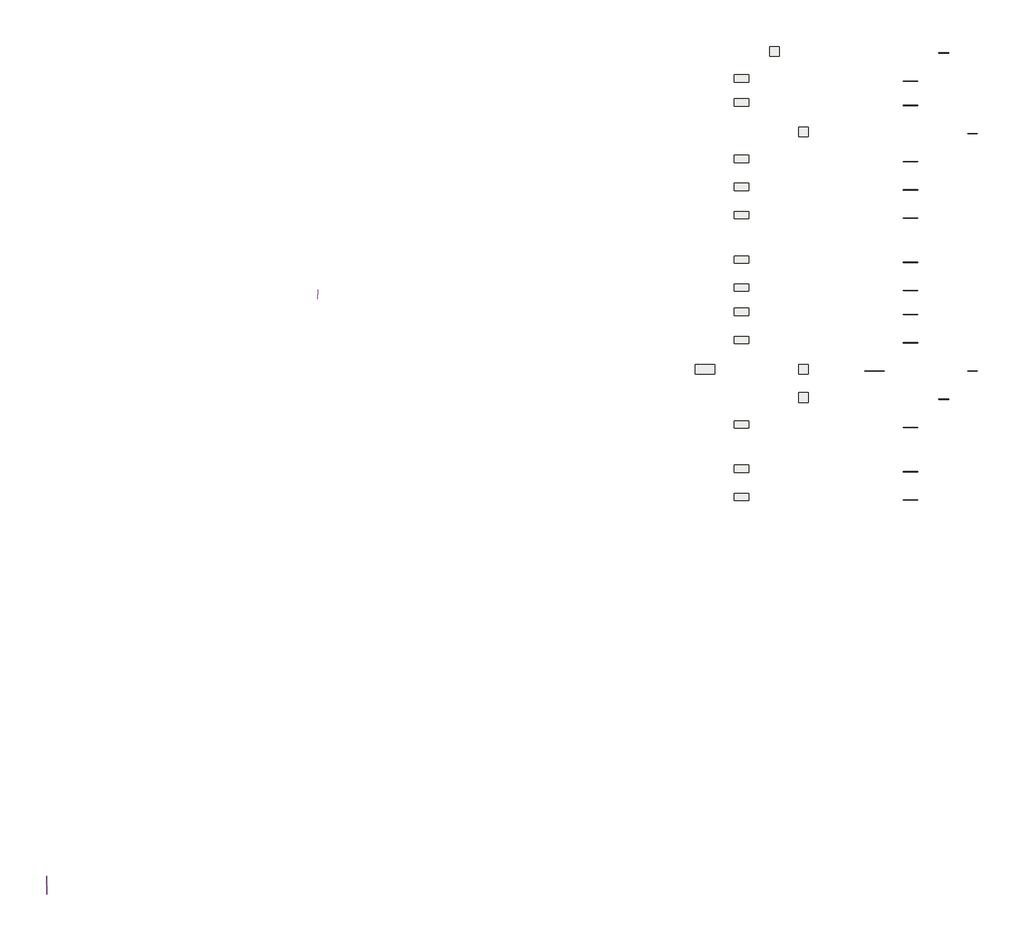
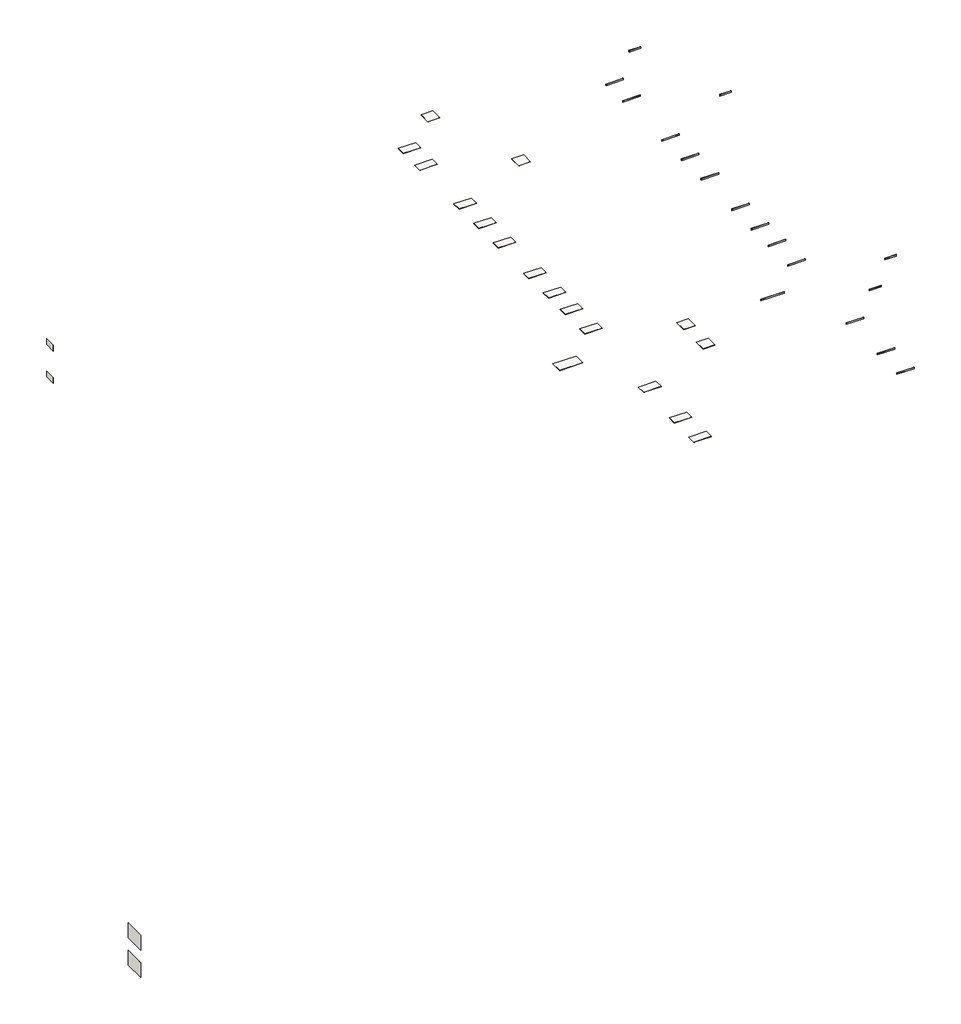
# One storey: 21 walls, 17 proxies, 17 slabs.
"""IFC4 building model written with IfcOpenShell, lengths in millimetres."""

from ifc_helpers import new_model, si_unit, frame, origin, place, context, project, spatial, polyline, outline, extrude, element, save

model = new_model("IFC4")

# Units and contexts
model_context = context("Model", 3, world=origin())
ifc_project = project(units=[si_unit("LENGTHUNIT", "METRE", prefix="MILLI")], contexts=[model_context])

# Site, building, storey
site = spatial("IfcSite", under=ifc_project)
building = spatial("IfcBuilding", under=site)
storey = spatial("IfcBuildingStorey", under=building, Name="apariencia MARMOL", Elevation=9000.0)

# Proxies
placement = place(None, origin())
element("IfcBuildingElementProxy", 1, Name="Cesantoni_Aranza_8x61_RO_Aranza_Brillante", ObjectType="Cesantoni_Aranza_8x61_RO_Aranza_Brillante", at=placement, inside=storey, context=model_context, shape_type="SweptSolid", body=[
    extrude(outline(polyline([(13869.8218898, 374.781227), (13869.8218898, 385.781227), (14479.8218898, 385.781227), (14479.8218898, 374.781227), (13869.8218898, 374.781227)])), frame((0.0, 0.0, 9000.0), z_axis=(0.0, 0.0, 1.0), x_axis=(1.0, 0.0, 0.0)), (0.0, 0.0, 1.0), 80.0),
])
element("IfcBuildingElementProxy", 2, Name="Cesantoni_Genova _8x90_RO_Perla_Mate", ObjectType="Cesantoni_Genova _8x90_RO_Perla_Mate", at=placement, inside=storey, context=model_context, shape_type="SweptSolid", body=[
    extrude(outline(polyline([(11669.8218898, -1375.218773), (11669.8218898, -1364.218773), (12569.8218898, -1364.218773), (12569.8218898, -1375.218773), (11669.8218898, -1375.218773)])), frame((0.0, 0.0, 9000.0), z_axis=(0.0, 0.0, 1.0), x_axis=(1.0, 0.0, 0.0)), (0.0, 0.0, 1.0), 80.0),
])
element("IfcBuildingElementProxy", 3, Name="Cesantoni_Genova _8x90_RO_Tabaco_Mate", ObjectType="Cesantoni_Genova _8x90_RO_Tabaco_Mate", at=placement, inside=storey, context=model_context, shape_type="SweptSolid", body=[
    extrude(outline(polyline([(11669.8218898, -2875.218773), (11669.8218898, -2864.218773), (12569.8218898, -2864.218773), (12569.8218898, -2875.218773), (11669.8218898, -2875.218773)])), frame((0.0, 0.0, 9000.0), z_axis=(0.0, 0.0, 1.0), x_axis=(1.0, 0.0, 0.0)), (0.0, 0.0, 1.0), 80.0),
])
element("IfcBuildingElementProxy", 4, Name="Cesantoni_Levicato_8x60_RO_Levicato_Mate", ObjectType="Cesantoni_Levicato_8x60_RO_Levicato_Mate", at=placement, inside=storey, context=model_context, shape_type="SweptSolid", body=[
    extrude(outline(polyline([(15669.8218898, -4625.218773), (15669.8218898, -4614.218773), (16269.8218898, -4614.218773), (16269.8218898, -4625.218773), (15669.8218898, -4625.218773)])), frame((0.0, 0.0, 9000.0), z_axis=(0.0, 0.0, 1.0), x_axis=(1.0, 0.0, 0.0)), (0.0, 0.0, 1.0), 80.0),
])
element("IfcBuildingElementProxy", 5, Name="Cesantoni_Milano_8x90_RO_Milano_Brillante", ObjectType="Cesantoni_Milano_8x90_RO_Milano_Brillante", at=placement, inside=storey, context=model_context, shape_type="SweptSolid", body=[
    extrude(outline(polyline([(11669.8218898, -6375.218773), (11669.8218898, -6364.218773), (12569.8218898, -6364.218773), (12569.8218898, -6375.218773), (11669.8218898, -6375.218773)])), frame((0.0, 0.0, 9000.0), z_axis=(0.0, 0.0, 1.0), x_axis=(1.0, 0.0, 0.0)), (0.0, 0.0, 1.0), 80.0),
])
element("IfcBuildingElementProxy", 6, Name="Cesantoni_Moncler_8x90_RO_Moncler_Brillante", ObjectType="Cesantoni_Moncler_8x90_RO_Moncler_Brillante", at=placement, inside=storey, context=model_context, shape_type="SweptSolid", body=[
    extrude(outline(polyline([(11669.8218898, -8125.218773), (11669.8218898, -8114.218773), (12569.8218898, -8114.218773), (12569.8218898, -8125.218773), (11669.8218898, -8125.218773)])), frame((0.0, 0.0, 9000.0), z_axis=(0.0, 0.0, 1.0), x_axis=(1.0, 0.0, 0.0)), (0.0, 0.0, 1.0), 80.0),
])
element("IfcBuildingElementProxy", 7, Name="Cesantoni_Monte_Carlo_8x90_RO_Monte_Carlo_Brillante", ObjectType="Cesantoni_Monte_Carlo_8x90_RO_Monte_Carlo_Brillante", at=placement, inside=storey, context=model_context, shape_type="SweptSolid", body=[
    extrude(outline(polyline([(11669.8218898, -9875.218773), (11669.8218898, -9864.218773), (12569.8218898, -9864.218773), (12569.8218898, -9875.218773), (11669.8218898, -9875.218773)])), frame((0.0, 0.0, 9000.0), z_axis=(0.0, 0.0, 1.0), x_axis=(1.0, 0.0, 0.0)), (0.0, 0.0, 1.0), 80.0),
])
element("IfcBuildingElementProxy", 8, Name="Cesantoni_Napa_8x90_RO_Napa_Mate", ObjectType="Cesantoni_Napa_8x90_RO_Napa_Mate", at=placement, inside=storey, context=model_context, shape_type="SweptSolid", body=[
    extrude(outline(polyline([(11669.8218898, -12625.218773), (11669.8218898, -12614.218773), (12569.8218898, -12614.218773), (12569.8218898, -12625.218773), (11669.8218898, -12625.218773)])), frame((0.0, 0.0, 9000.0), z_axis=(0.0, 0.0, 1.0), x_axis=(1.0, 0.0, 0.0)), (0.0, 0.0, 1.0), 80.0),
])
element("IfcBuildingElementProxy", 9, Name="Cesantoni_Rochelle_8x90_RO_Bruno_Brillante", ObjectType="Cesantoni_Rochelle_8x90_RO_Bruno_Brillante", at=placement, inside=storey, context=model_context, shape_type="SweptSolid", body=[
    extrude(outline(polyline([(11669.8218898, -14375.218773), (11669.8218898, -14364.218773), (12569.8218898, -14364.218773), (12569.8218898, -14375.218773), (11669.8218898, -14375.218773)])), frame((0.0, 0.0, 9000.0), z_axis=(0.0, 0.0, 1.0), x_axis=(1.0, 0.0, 0.0)), (0.0, 0.0, 1.0), 80.0),
])
element("IfcBuildingElementProxy", 10, Name="Cesantoni_Rochelle_8x90_RO_Toscano_Brillante", ObjectType="Cesantoni_Rochelle_8x90_RO_Toscano_Brillante", at=placement, inside=storey, context=model_context, shape_type="SweptSolid", body=[
    extrude(outline(polyline([(11669.8218898, -15875.218773), (11669.8218898, -15864.218773), (12569.8218898, -15864.218773), (12569.8218898, -15875.218773), (11669.8218898, -15875.218773)])), frame((0.0, 0.0, 9000.0), z_axis=(0.0, 0.0, 1.0), x_axis=(1.0, 0.0, 0.0)), (0.0, 0.0, 1.0), 80.0),
])
element("IfcBuildingElementProxy", 11, Name="Cesantoni_Santo_Tomas_8x90_RO_Santo_Tomas_Mate", ObjectType="Cesantoni_Santo_Tomas_8x90_RO_Santo_Tomas_Mate", at=placement, inside=storey, context=model_context, shape_type="SweptSolid", body=[
    extrude(outline(polyline([(11669.8218898, -17625.218773), (11669.8218898, -17614.218773), (12569.8218898, -17614.218773), (12569.8218898, -17625.218773), (11669.8218898, -17625.218773)])), frame((0.0, 0.0, 9000.0), z_axis=(0.0, 0.0, 1.0), x_axis=(1.0, 0.0, 0.0)), (0.0, 0.0, 1.0), 80.0),
])
element("IfcBuildingElementProxy", 12, Name="Cesantoni_Santorini_8x60_RO_Santorini_Mate", ObjectType="Cesantoni_Santorini_8x60_RO_Santorini_Mate", at=placement, inside=storey, context=model_context, shape_type="SweptSolid", body=[
    extrude(outline(polyline([(15669.8218898, -19375.218773), (15669.8218898, -19364.218773), (16269.8218898, -19364.218773), (16269.8218898, -19375.218773), (15669.8218898, -19375.218773)])), frame((0.0, 0.0, 9000.0), z_axis=(0.0, 0.0, 1.0), x_axis=(1.0, 0.0, 0.0)), (0.0, 0.0, 1.0), 80.0),
])
element("IfcBuildingElementProxy", 13, Name="Cesantoni_Santorini_8x120_RO_Santorini_Mate", ObjectType="Cesantoni_Santorini_8x120_RO_Santorini_Mate", at=placement, inside=storey, context=model_context, shape_type="SweptSolid", body=[
    extrude(outline(polyline([(9269.8218898, -19375.218773), (9269.8218898, -19364.218773), (10469.8218898, -19364.218773), (10469.8218898, -19375.218773), (9269.8218898, -19375.218773)])), frame((0.0, 0.0, 9000.0), z_axis=(0.0, 0.0, 1.0), x_axis=(1.0, 0.0, 0.0)), (0.0, 0.0, 1.0), 80.0),
])
element("IfcBuildingElementProxy", 14, Name="Cesantoni_Travali_8x61_RO_Travali_Brillante", ObjectType="Cesantoni_Travali_8x61_RO_Travali_Brillante", at=placement, inside=storey, context=model_context, shape_type="SweptSolid", body=[
    extrude(outline(polyline([(13869.8218898, -21125.218773), (13869.8218898, -21114.218773), (14479.8218898, -21114.218773), (14479.8218898, -21125.218773), (13869.8218898, -21125.218773)])), frame((0.0, 0.0, 9000.0), z_axis=(0.0, 0.0, 1.0), x_axis=(1.0, 0.0, 0.0)), (0.0, 0.0, 1.0), 80.0),
])
element("IfcBuildingElementProxy", 15, Name="Cesantoni_Veleta_8x90_RO_Veleta_Mate", ObjectType="Cesantoni_Veleta_8x90_RO_Veleta_Mate", at=placement, inside=storey, context=model_context, shape_type="SweptSolid", body=[
    extrude(outline(polyline([(11669.8218898, -25625.218773), (11669.8218898, -25614.218773), (12569.8218898, -25614.218773), (12569.8218898, -25625.218773), (11669.8218898, -25625.218773)])), frame((0.0, 0.0, 9000.0), z_axis=(0.0, 0.0, 1.0), x_axis=(1.0, 0.0, 0.0)), (0.0, 0.0, 1.0), 80.0),
])
element("IfcBuildingElementProxy", 16, Name="Cesantoni_Valenzi_8x90_RO_Valenzi_Mate", ObjectType="Cesantoni_Valenzi_8x90_RO_Valenzi_Mate", at=placement, inside=storey, context=model_context, shape_type="SweptSolid", body=[
    extrude(outline(polyline([(11669.8218898, -22875.218773), (11669.8218898, -22864.218773), (12569.8218898, -22864.218773), (12569.8218898, -22875.218773), (11669.8218898, -22875.218773)])), frame((0.0, 0.0, 9000.0), z_axis=(0.0, 0.0, 1.0), x_axis=(1.0, 0.0, 0.0)), (0.0, 0.0, 1.0), 80.0),
])
element("IfcBuildingElementProxy", 17, Name="Cesantoni_Zadar_8x90_RO_Zadar_Brillante", ObjectType="Cesantoni_Zadar_8x90_RO_Zadar_Brillante", at=placement, inside=storey, context=model_context, shape_type="SweptSolid", body=[
    extrude(outline(polyline([(11669.8218898, -27375.218773), (11669.8218898, -27364.218773), (12569.8218898, -27364.218773), (12569.8218898, -27375.218773), (11669.8218898, -27375.218773)])), frame((0.0, 0.0, 9000.0), z_axis=(0.0, 0.0, 1.0), x_axis=(1.0, 0.0, 0.0)), (0.0, 0.0, 1.0), 80.0),
])

# Slabs
element("IfcSlab", 18, ObjectType="Cesantoni_Aranza_61x61_RECT_Aranza_Brillante", at=placement, inside=storey, context=model_context, shape_type="SweptSolid", body=[
    extrude(outline(polyline([(3981.8218898, 784.4826442), (3981.8218898, 172.4826442), (3369.8218898, 172.4826442), (3369.8218898, 784.4826442), (3981.8218898, 784.4826442)])), frame((0.0, 0.0, 8989.0), z_axis=(0.0, 0.0, 1.0), x_axis=(1.0, 0.0, 0.0)), (0.0, 0.0, 1.0), 11.0),
])
element("IfcSlab", 19, ObjectType="Cesantoni_Genova _45x90_RECT_Perla_Mate", at=placement, inside=storey, context=model_context, shape_type="SweptSolid", body=[
    extrude(outline(polyline([(2071.8218898, -965.5173558), (2071.8218898, -1417.5173558), (1169.8218898, -1417.5173558), (1169.8218898, -965.5173558), (2071.8218898, -965.5173558)])), frame((0.0, 0.0, 8989.0), z_axis=(0.0, 0.0, 1.0), x_axis=(1.0, 0.0, 0.0)), (0.0, 0.0, 1.0), 11.0),
])
element("IfcSlab", 20, ObjectType="Cesantoni_Genova _45x90_RECT_Tabaco_Mate", at=placement, inside=storey, context=model_context, shape_type="SweptSolid", body=[
    extrude(outline(polyline([(2071.8218898, -2465.5173558), (2071.8218898, -2917.5173558), (1169.8218898, -2917.5173558), (1169.8218898, -2465.5173558), (2071.8218898, -2465.5173558)])), frame((0.0, 0.0, 8989.0), z_axis=(0.0, 0.0, 1.0), x_axis=(1.0, 0.0, 0.0)), (0.0, 0.0, 1.0), 11.0),
])
element("IfcSlab", 21, ObjectType="Cesantoni_Levicato_60x60_RECT_Levicato_Mate", at=placement, inside=storey, context=model_context, shape_type="SweptSolid", body=[
    extrude(outline(polyline([(5771.8218898, -4215.5173558), (5771.8218898, -4817.5173558), (5169.8218898, -4817.5173558), (5169.8218898, -4215.5173558), (5771.8218898, -4215.5173558)])), frame((0.0, 0.0, 8989.0), z_axis=(0.0, 0.0, 1.0), x_axis=(1.0, 0.0, 0.0)), (0.0, 0.0, 1.0), 11.0),
])
element("IfcSlab", 22, ObjectType="Cesantoni_Milano_45x90_RECT_Milano_Brillante", at=placement, inside=storey, context=model_context, shape_type="SweptSolid", body=[
    extrude(outline(polyline([(2071.8218898, -5965.5173558), (2071.8218898, -6417.5173558), (1169.8218898, -6417.5173558), (1169.8218898, -5965.5173558), (2071.8218898, -5965.5173558)])), frame((0.0, 0.0, 8989.0), z_axis=(0.0, 0.0, 1.0), x_axis=(1.0, 0.0, 0.0)), (0.0, 0.0, 1.0), 11.0),
])
element("IfcSlab", 23, ObjectType="Cesantoni_Moncler_45x90_RECT_Moncler_Brillante", at=placement, inside=storey, context=model_context, shape_type="SweptSolid", body=[
    extrude(outline(polyline([(2071.8218898, -7715.5173558), (2071.8218898, -8167.5173558), (1169.8218898, -8167.5173558), (1169.8218898, -7715.5173558), (2071.8218898, -7715.5173558)])), frame((0.0, 0.0, 8989.0), z_axis=(0.0, 0.0, 1.0), x_axis=(1.0, 0.0, 0.0)), (0.0, 0.0, 1.0), 11.0),
])
element("IfcSlab", 24, ObjectType="Cesantoni_Monte_Carlo_45x90_RECT_Monte_Carlo_Brillante", at=placement, inside=storey, context=model_context, shape_type="SweptSolid", body=[
    extrude(outline(polyline([(2071.8218898, -9465.5173558), (2071.8218898, -9917.5173558), (1169.8218898, -9917.5173558), (1169.8218898, -9465.5173558), (2071.8218898, -9465.5173558)])), frame((0.0, 0.0, 8989.0), z_axis=(0.0, 0.0, 1.0), x_axis=(1.0, 0.0, 0.0)), (0.0, 0.0, 1.0), 11.0),
])
element("IfcSlab", 25, ObjectType="Cesantoni_Napa_45x90_RECT_Napa_Mate", at=placement, inside=storey, context=model_context, shape_type="SweptSolid", body=[
    extrude(outline(polyline([(2071.8218898, -12215.5173558), (2071.8218898, -12667.5173558), (1169.8218898, -12667.5173558), (1169.8218898, -12215.5173558), (2071.8218898, -12215.5173558)])), frame((0.0, 0.0, 8989.0), z_axis=(0.0, 0.0, 1.0), x_axis=(1.0, 0.0, 0.0)), (0.0, 0.0, 1.0), 11.0),
])
element("IfcSlab", 26, ObjectType="Cesantoni_Rochelle_45x90_RECT_Bruno_Brillante", at=placement, inside=storey, context=model_context, shape_type="SweptSolid", body=[
    extrude(outline(polyline([(2071.8218898, -13965.5173558), (2071.8218898, -14417.5173558), (1169.8218898, -14417.5173558), (1169.8218898, -13965.5173558), (2071.8218898, -13965.5173558)])), frame((0.0, 0.0, 8989.0), z_axis=(0.0, 0.0, 1.0), x_axis=(1.0, 0.0, 0.0)), (0.0, 0.0, 1.0), 11.0),
])
element("IfcSlab", 27, ObjectType="Cesantoni_Rochelle_45x90_RECT_Toscano_Brillante", at=placement, inside=storey, context=model_context, shape_type="SweptSolid", body=[
    extrude(outline(polyline([(2071.8218898, -15465.5173558), (2071.8218898, -15917.5173558), (1169.8218898, -15917.5173558), (1169.8218898, -15465.5173558), (2071.8218898, -15465.5173558)])), frame((0.0, 0.0, 8989.0), z_axis=(0.0, 0.0, 1.0), x_axis=(1.0, 0.0, 0.0)), (0.0, 0.0, 1.0), 11.0),
])
element("IfcSlab", 28, ObjectType="Cesantoni_Santo_Tomas_45x90_RECT_Santo_Tomas_Mate", at=placement, inside=storey, context=model_context, shape_type="SweptSolid", body=[
    extrude(outline(polyline([(2071.8218898, -17215.5173558), (2071.8218898, -17667.5173558), (1169.8218898, -17667.5173558), (1169.8218898, -17215.5173558), (2071.8218898, -17215.5173558)])), frame((0.0, 0.0, 8989.0), z_axis=(0.0, 0.0, 1.0), x_axis=(1.0, 0.0, 0.0)), (0.0, 0.0, 1.0), 11.0),
])
element("IfcSlab", 29, ObjectType="Cesantoni_Santorini_60x60_RECT_Santorini_Mate", at=placement, inside=storey, context=model_context, shape_type="SweptSolid", body=[
    extrude(outline(polyline([(5771.8218898, -18965.5173558), (5771.8218898, -19567.5173558), (5169.8218898, -19567.5173558), (5169.8218898, -18965.5173558), (5771.8218898, -18965.5173558)])), frame((0.0, 0.0, 8989.0), z_axis=(0.0, 0.0, 1.0), x_axis=(1.0, 0.0, 0.0)), (0.0, 0.0, 1.0), 11.0),
])
element("IfcSlab", 30, ObjectType="Cesantoni_Santorini_60x120_RECT_Santorini_Mate", at=placement, inside=storey, context=model_context, shape_type="SweptSolid", body=[
    extrude(outline(polyline([(-28.1781102, -18965.5173558), (-28.1781102, -19567.5173558), (-1230.1781102, -19567.5173558), (-1230.1781102, -18965.5173558), (-28.1781102, -18965.5173558)])), frame((0.0, 0.0, 8989.0), z_axis=(0.0, 0.0, 1.0), x_axis=(1.0, 0.0, 0.0)), (0.0, 0.0, 1.0), 11.0),
])
element("IfcSlab", 31, ObjectType="Cesantoni_Travali_61x61_RECT_Travali_Brillante", at=placement, inside=storey, context=model_context, shape_type="SweptSolid", body=[
    extrude(outline(polyline([(5771.8218898, -20715.5173558), (5771.8218898, -21317.5173558), (5169.8218898, -21317.5173558), (5169.8218898, -20715.5173558), (5771.8218898, -20715.5173558)])), frame((0.0, 0.0, 8989.0), z_axis=(0.0, 0.0, 1.0), x_axis=(1.0, 0.0, 0.0)), (0.0, 0.0, 1.0), 11.0),
])
element("IfcSlab", 32, ObjectType="Cesantoni_Valenzi_45x90_RECT_Valenzi_Mate", at=placement, inside=storey, context=model_context, shape_type="SweptSolid", body=[
    extrude(outline(polyline([(2071.8218898, -22465.5173558), (2071.8218898, -22917.5173558), (1169.8218898, -22917.5173558), (1169.8218898, -22465.5173558), (2071.8218898, -22465.5173558)])), frame((0.0, 0.0, 8989.0), z_axis=(0.0, 0.0, 1.0), x_axis=(1.0, 0.0, 0.0)), (0.0, 0.0, 1.0), 11.0),
])
element("IfcSlab", 33, ObjectType="Cesantoni_Veleta_45x90_RECT_Veleta_Mate", at=placement, inside=storey, context=model_context, shape_type="SweptSolid", body=[
    extrude(outline(polyline([(2071.8218898, -25215.5173558), (2071.8218898, -25667.5173558), (1169.8218898, -25667.5173558), (1169.8218898, -25215.5173558), (2071.8218898, -25215.5173558)])), frame((0.0, 0.0, 8989.0), z_axis=(0.0, 0.0, 1.0), x_axis=(1.0, 0.0, 0.0)), (0.0, 0.0, 1.0), 11.0),
])
element("IfcSlab", 34, ObjectType="Cesantoni_Zadar_45x90_RECT_Zadar_Brillante", at=placement, inside=storey, context=model_context, shape_type="SweptSolid", body=[
    extrude(outline(polyline([(2071.8218898, -26965.5173558), (2071.8218898, -27417.5173558), (1169.8218898, -27417.5173558), (1169.8218898, -26965.5173558), (2071.8218898, -26965.5173558)])), frame((0.0, 0.0, 8989.0), z_axis=(0.0, 0.0, 1.0), x_axis=(1.0, 0.0, 0.0)), (0.0, 0.0, 1.0), 11.0),
])

# Walls
element("IfcWall", 35, ObjectType="Cesantoni_Volterra_30x60_Volterra_Mate", at=placement, inside=storey, context=model_context, shape_type="SweptSolid", body=[
    extrude(outline(polyline([(-24674.55447, -14310.0172176), (-24674.55447, -14912.0172176), (-24684.55447, -14912.0172176), (-24684.55447, -14310.0172176), (-24674.55447, -14310.0172176)])), frame((0.0, 0.0, 15448.0), z_axis=(0.0, 0.0, 1.0), x_axis=(1.0, 0.0, 0.0)), (0.0, 0.0, 1.0), 302.0),
])
element("IfcWall", 36, ObjectType="Muro básico:muro", at=placement, inside=storey, context=model_context, shape_type="SweptSolid", body=[
    extrude(outline(polyline([(14479.8218898, 385.781227), (13869.8218898, 385.781227), (13869.8218898, 386.781227), (14479.8218898, 386.781227), (14479.8218898, 385.781227)])), frame((0.0, 0.0, 9000.0), z_axis=(0.0, 0.0, 1.0), x_axis=(1.0, 0.0, 0.0)), (0.0, 0.0, 1.0), 40.0),
])
element("IfcWall", 37, ObjectType="Muro básico:muro", at=placement, inside=storey, context=model_context, shape_type="SweptSolid", body=[
    extrude(outline(polyline([(12569.8218898, -1364.218773), (11669.8218898, -1364.218773), (11669.8218898, -1363.218773), (12569.8218898, -1363.218773), (12569.8218898, -1364.218773)])), frame((0.0, 0.0, 9000.0), z_axis=(0.0, 0.0, 1.0), x_axis=(1.0, 0.0, 0.0)), (0.0, 0.0, 1.0), 40.0),
])
element("IfcWall", 38, ObjectType="Muro básico:muro", at=placement, inside=storey, context=model_context, shape_type="SweptSolid", body=[
    extrude(outline(polyline([(12569.8218898, -2864.218773), (11669.8218898, -2864.218773), (11669.8218898, -2863.218773), (12569.8218898, -2863.218773), (12569.8218898, -2864.218773)])), frame((0.0, 0.0, 9000.0), z_axis=(0.0, 0.0, 1.0), x_axis=(1.0, 0.0, 0.0)), (0.0, 0.0, 1.0), 40.0),
])
element("IfcWall", 39, ObjectType="Muro básico:muro", at=placement, inside=storey, context=model_context, shape_type="SweptSolid", body=[
    extrude(outline(polyline([(16269.8218898, -4614.218773), (15669.8218898, -4614.218773), (15669.8218898, -4613.218773), (16269.8218898, -4613.218773), (16269.8218898, -4614.218773)])), frame((0.0, 0.0, 9000.0), z_axis=(0.0, 0.0, 1.0), x_axis=(1.0, 0.0, 0.0)), (0.0, 0.0, 1.0), 40.0),
])
element("IfcWall", 40, ObjectType="Muro básico:muro", at=placement, inside=storey, context=model_context, shape_type="SweptSolid", body=[
    extrude(outline(polyline([(12569.8218898, -6364.218773), (11669.8218898, -6364.218773), (11669.8218898, -6363.218773), (12569.8218898, -6363.218773), (12569.8218898, -6364.218773)])), frame((0.0, 0.0, 9000.0), z_axis=(0.0, 0.0, 1.0), x_axis=(1.0, 0.0, 0.0)), (0.0, 0.0, 1.0), 40.0),
])
element("IfcWall", 41, ObjectType="Muro básico:muro", at=placement, inside=storey, context=model_context, shape_type="SweptSolid", body=[
    extrude(outline(polyline([(12569.8218898, -8114.218773), (11669.8218898, -8114.218773), (11669.8218898, -8113.218773), (12569.8218898, -8113.218773), (12569.8218898, -8114.218773)])), frame((0.0, 0.0, 9000.0), z_axis=(0.0, 0.0, 1.0), x_axis=(1.0, 0.0, 0.0)), (0.0, 0.0, 1.0), 40.0),
])
element("IfcWall", 42, ObjectType="Muro básico:muro", at=placement, inside=storey, context=model_context, shape_type="SweptSolid", body=[
    extrude(outline(polyline([(12569.8218898, -9864.218773), (11669.8218898, -9864.218773), (11669.8218898, -9863.218773), (12569.8218898, -9863.218773), (12569.8218898, -9864.218773)])), frame((0.0, 0.0, 9000.0), z_axis=(0.0, 0.0, 1.0), x_axis=(1.0, 0.0, 0.0)), (0.0, 0.0, 1.0), 40.0),
])
element("IfcWall", 43, ObjectType="Muro básico:muro", at=placement, inside=storey, context=model_context, shape_type="SweptSolid", body=[
    extrude(outline(polyline([(12569.8218898, -12614.218773), (11669.8218898, -12614.218773), (11669.8218898, -12613.218773), (12569.8218898, -12613.218773), (12569.8218898, -12614.218773)])), frame((0.0, 0.0, 9000.0), z_axis=(0.0, 0.0, 1.0), x_axis=(1.0, 0.0, 0.0)), (0.0, 0.0, 1.0), 40.0),
])
element("IfcWall", 44, ObjectType="Muro básico:muro", at=placement, inside=storey, context=model_context, shape_type="SweptSolid", body=[
    extrude(outline(polyline([(12569.8218898, -14364.218773), (11669.8218898, -14364.218773), (11669.8218898, -14363.218773), (12569.8218898, -14363.218773), (12569.8218898, -14364.218773)])), frame((0.0, 0.0, 9000.0), z_axis=(0.0, 0.0, 1.0), x_axis=(1.0, 0.0, 0.0)), (0.0, 0.0, 1.0), 40.0),
])
element("IfcWall", 45, ObjectType="Muro básico:muro", at=placement, inside=storey, context=model_context, shape_type="SweptSolid", body=[
    extrude(outline(polyline([(12569.8218898, -15864.218773), (11669.8218898, -15864.218773), (11669.8218898, -15863.218773), (12569.8218898, -15863.218773), (12569.8218898, -15864.218773)])), frame((0.0, 0.0, 9000.0), z_axis=(0.0, 0.0, 1.0), x_axis=(1.0, 0.0, 0.0)), (0.0, 0.0, 1.0), 40.0),
])
element("IfcWall", 46, ObjectType="Muro básico:muro", at=placement, inside=storey, context=model_context, shape_type="SweptSolid", body=[
    extrude(outline(polyline([(12569.8218898, -17614.218773), (11669.8218898, -17614.218773), (11669.8218898, -17613.218773), (12569.8218898, -17613.218773), (12569.8218898, -17614.218773)])), frame((0.0, 0.0, 9000.0), z_axis=(0.0, 0.0, 1.0), x_axis=(1.0, 0.0, 0.0)), (0.0, 0.0, 1.0), 40.0),
])
element("IfcWall", 47, ObjectType="Muro básico:muro", at=placement, inside=storey, context=model_context, shape_type="SweptSolid", body=[
    extrude(outline(polyline([(16269.8218898, -19364.218773), (15669.8218898, -19364.218773), (15669.8218898, -19363.218773), (16269.8218898, -19363.218773), (16269.8218898, -19364.218773)])), frame((0.0, 0.0, 9000.0), z_axis=(0.0, 0.0, 1.0), x_axis=(1.0, 0.0, 0.0)), (0.0, 0.0, 1.0), 40.0),
])
element("IfcWall", 48, ObjectType="Muro básico:muro", at=placement, inside=storey, context=model_context, shape_type="SweptSolid", body=[
    extrude(outline(polyline([(10469.8218898, -19364.218773), (9269.8218898, -19364.218773), (9269.8218898, -19363.218773), (10469.8218898, -19363.218773), (10469.8218898, -19364.218773)])), frame((0.0, 0.0, 9000.0), z_axis=(0.0, 0.0, 1.0), x_axis=(1.0, 0.0, 0.0)), (0.0, 0.0, 1.0), 40.0),
])
element("IfcWall", 49, ObjectType="Muro básico:muro", at=placement, inside=storey, context=model_context, shape_type="SweptSolid", body=[
    extrude(outline(polyline([(14479.8218898, -21114.218773), (13869.8218898, -21114.218773), (13869.8218898, -21113.218773), (14479.8218898, -21113.218773), (14479.8218898, -21114.218773)])), frame((0.0, 0.0, 9000.0), z_axis=(0.0, 0.0, 1.0), x_axis=(1.0, 0.0, 0.0)), (0.0, 0.0, 1.0), 40.0),
])
element("IfcWall", 50, ObjectType="Muro básico:muro", at=placement, inside=storey, context=model_context, shape_type="SweptSolid", body=[
    extrude(outline(polyline([(12569.8218898, -25614.218773), (11669.8218898, -25614.218773), (11669.8218898, -25613.218773), (12569.8218898, -25613.218773), (12569.8218898, -25614.218773)])), frame((0.0, 0.0, 9000.0), z_axis=(0.0, 0.0, 1.0), x_axis=(1.0, 0.0, 0.0)), (0.0, 0.0, 1.0), 40.0),
])
element("IfcWall", 51, ObjectType="Muro básico:muro", at=placement, inside=storey, context=model_context, shape_type="SweptSolid", body=[
    extrude(outline(polyline([(12569.8218898, -22864.218773), (11669.8218898, -22864.218773), (11669.8218898, -22863.218773), (12569.8218898, -22863.218773), (12569.8218898, -22864.218773)])), frame((0.0, 0.0, 9000.0), z_axis=(0.0, 0.0, 1.0), x_axis=(1.0, 0.0, 0.0)), (0.0, 0.0, 1.0), 40.0),
])
element("IfcWall", 52, ObjectType="Muro básico:muro", at=placement, inside=storey, context=model_context, shape_type="SweptSolid", body=[
    extrude(outline(polyline([(12569.8218898, -27364.218773), (11669.8218898, -27364.218773), (11669.8218898, -27363.218773), (12569.8218898, -27363.218773), (12569.8218898, -27364.218773)])), frame((0.0, 0.0, 9000.0), z_axis=(0.0, 0.0, 1.0), x_axis=(1.0, 0.0, 0.0)), (0.0, 0.0, 1.0), 40.0),
])
element("IfcWall", 53, ObjectType="Cesantoni_Mylo_30x60_RECT_Mylo_Mate", at=placement, inside=storey, context=model_context, shape_type="SweptSolid", body=[
    extrude(outline(polyline([(-24674.55447, -14309.3531771), (-24674.55447, -14911.3531771), (-24684.55447, -14911.3531771), (-24684.55447, -14309.3531771), (-24674.55447, -14309.3531771)])), frame((0.0, 0.0, 13678.1768034), z_axis=(0.0, 0.0, 1.0), x_axis=(1.0, 0.0, 0.0)), (0.0, 0.0, 1.0), 302.0),
])
element("IfcWall", 54, ObjectType="Cesantoni_Charlot_28.3x7.2_Rose Mate_Mate", at=placement, inside=storey, context=model_context, shape_type="SweptSolid", body=[
    extrude(outline(polyline([(-41497.3407204, -50736.7282789), (-41497.3407204, -51856.7282789), (-41507.3407204, -51856.7282789), (-41507.3407204, -50736.7282789), (-41497.3407204, -50736.7282789)])), frame((0.0, 0.0, 11030.1233813), z_axis=(0.0, 0.0, 1.0), x_axis=(1.0, 0.0, 0.0)), (0.0, 0.0, 1.0), 814.0),
])
element("IfcWall", 55, ObjectType="Cesantoni_Charlot_28.3x7.2_Honey_Mate", at=placement, inside=storey, context=model_context, shape_type="SweptSolid", body=[
    extrude(outline(polyline([(-41497.3407204, -50736.7282789), (-41497.3407204, -51856.7282789), (-41507.3407204, -51856.7282789), (-41507.3407204, -50736.7282789), (-41497.3407204, -50736.7282789)])), frame((0.0, 0.0, 9546.5829342), z_axis=(0.0, 0.0, 1.0), x_axis=(1.0, 0.0, 0.0)), (0.0, 0.0, 1.0), 812.8042727),
])

save(model, "model.ifc")
